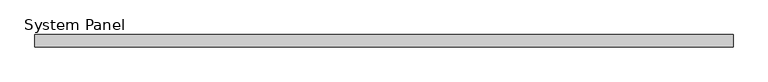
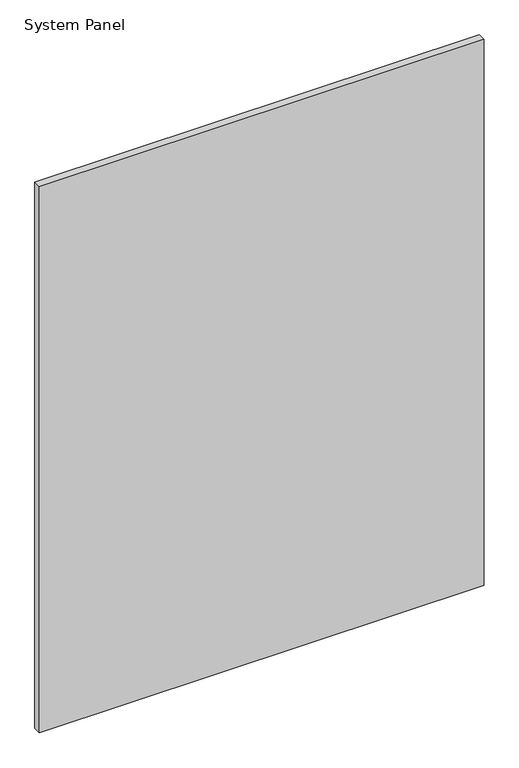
"""IFC4 building model written with IfcOpenShell, lengths in millimetres: plate geometry, System Panel : Panel_Glazed_Generic Showcase_30mm."""

from ifc_helpers import new_model, si_unit, origin, origin_with_axes, place, context, project, spatial, polyline, outline, extrude, source, transform, mapped, element, save


def system_panel_7ef738d5(model_context):
    return source(origin(), model_context, "Body", "SweptSolid", [
        extrude(outline(polyline([(847.226735, 0.0), (-847.226735, 0.0), (-847.226735, 30.0), (847.226735, 30.0), (847.226735, 0.0)])), origin_with_axes(), (0.0, 0.0, 1.0), 2200.0),
    ])


if __name__ == "__main__":
    model = new_model("IFC4")
    model_context = context("Model", 3, world=origin())
    ifc_project = project(units=[si_unit("LENGTHUNIT", "METRE", prefix="MILLI")], contexts=[model_context])
    site = spatial("IfcSite", under=ifc_project)
    building = spatial("IfcBuilding", under=site)
    placement = place(None, origin())
    system_panel_shape = system_panel_7ef738d5(model_context)
    element("IfcPlate", 1, ObjectType="System Panel : Panel_Glazed_Generic Showcase_30mm", at=placement, inside=building, context=model_context, shape_type="MappedRepresentation", body=[
        mapped(system_panel_shape, transform((0.0, 0.0, 0.0), x_axis=(1.0, 0.0, 0.0), y_axis=(0.0, 1.0, 0.0), z_axis=(0.0, 0.0, 1.0))),
    ])
    save(model, "model.ifc")
